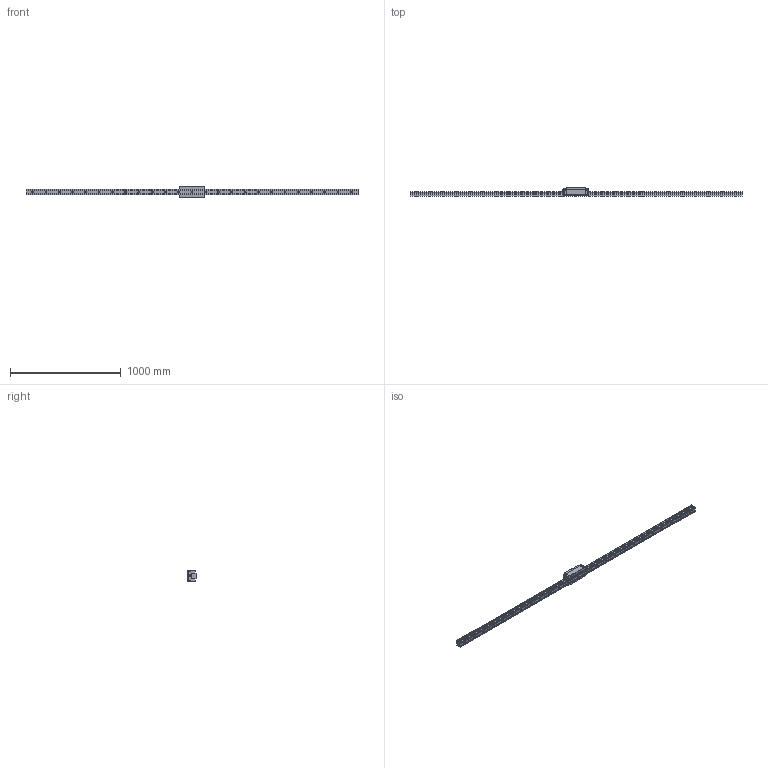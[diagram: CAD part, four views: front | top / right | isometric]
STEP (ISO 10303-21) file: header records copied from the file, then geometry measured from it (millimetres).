
FILE_DESCRIPTION(/* description */ ('STEP AP214'),/* implementation_level */ '2;1');
FILE_NAME(/* name */ 'HDR55LR1SS-3000L_G60_0_B-PT18_1391-35_0_0_01',/* time_stamp */ '2023-06-30T12:51:45+02:00',/* author */ ('License CC BY-ND 4.0'),/* organization */ ('CADENAS'),/* preprocessor_version */ 'ST-DEVELOPER v19.3',/* originating_system */ 'PARTsolutions',/* authorisation */ ' ');
FILE_SCHEMA (('AUTOMOTIVE_DESIGN {1 0 10303 214 3 1 1}'));
Length unit declared in the file: millimetre
Products named in the file (4): HDR55LR1SS-3000L_G60_0_B-PT18_1391-35_0_0_01; hsr_ftht_B-PT1/8_grease_nipple_joint; HDR55LRSSB-PT1/8 Slider-1; HDR55LR1300060 Rail
Assembly tree (3 placements, depth 2):
  HDR55LR1SS-3000L_G60_0_B-PT18_1391-35_0_0_01
    hsr_ftht_B-PT1/8_grease_nipple_joint
    HDR55LRSSB-PT1/8 Slider-1
    HDR55LR1300060 Rail
Bounding box: 3000 x 80 x 100 mm (x, y, z)
Volume: 6759869.4 mm3; surface area: 776464.8 mm2
Topology: 3 solids, 3 shells, 304 faces, 754 edges, 491 vertices
Faces by surface type: plane 164, cylinder 111, cone 24, torus 3, sphere 2
Full cylindrical faces by diameter (mm): 5.2 x4, 9.6 x1, 10.106 x6, 10.2 x2, 12.5 x2, 16 x25, 23 x25
Entity records: 8728 total; most frequent: CARTESIAN_POINT 1565, DIRECTION 1482, ORIENTED_EDGE 1290, EDGE_CURVE 645, AXIS2_PLACEMENT_3D 556, FACE_BOUND 491, VERTEX_POINT 484, EDGE_LOOP 483
